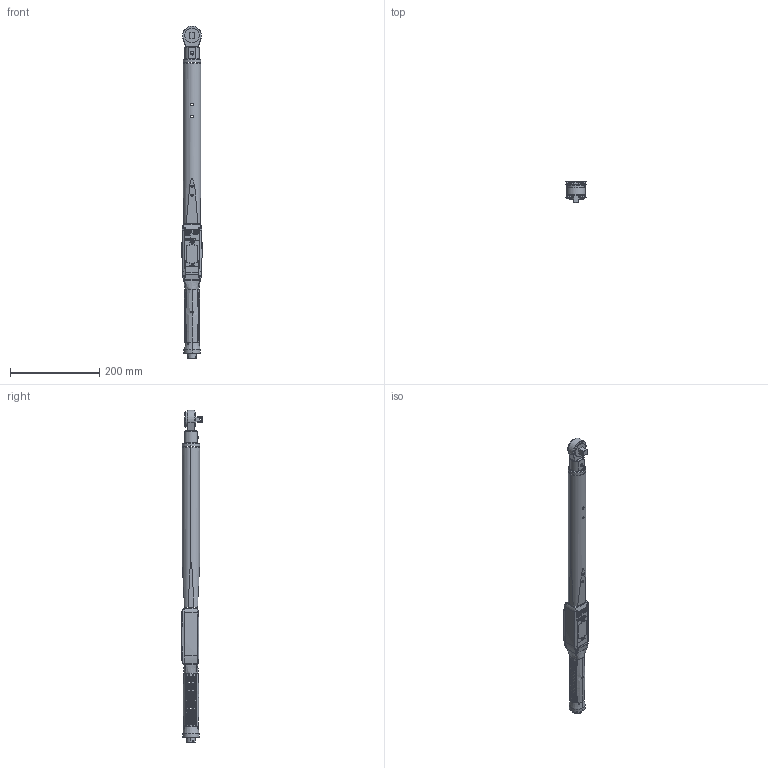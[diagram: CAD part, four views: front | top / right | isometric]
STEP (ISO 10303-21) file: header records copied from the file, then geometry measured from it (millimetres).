
FILE_DESCRIPTION((''),'2;1');
FILE_NAME('6152210420_DIM','2021-12-06T16:35:04',('S00000450'),(''),'CREO PARAMETRIC BY PTC INC, 2021072','CREO PARAMETRIC BY PTC INC, 2021072','');
FILE_SCHEMA(('AP242_MANAGED_MODEL_BASED_3D_ENGINEERING_MIM_LF { 1 0 10303 442 1 1 4 }'));
Length unit declared in the file: millimetre
Products named in the file (1): 6152210420_DIM
Bounding box: 45.16 x 48.56 x 743.7 mm (x, y, z)
Surface area: 95413.5 mm2 (no closed solid volume)
Topology: 0 solids, 1392 shells, 5885 faces, 24596 edges, 19441 vertices
Faces by surface type: plane 2786, extrusion 2377, bspline 371, cylinder 210, sphere 106, cone 33, torus 2
Entity records: 471618 total; most frequent: CARTESIAN_POINT 254495, ORIENTED_EDGE 29717, EDGE_CURVE 24496, DIRECTION 24429, VERTEX_POINT 19441, VECTOR 15381, LINE 13004, B_SPLINE_CURVE_WITH_KNOTS 12482
